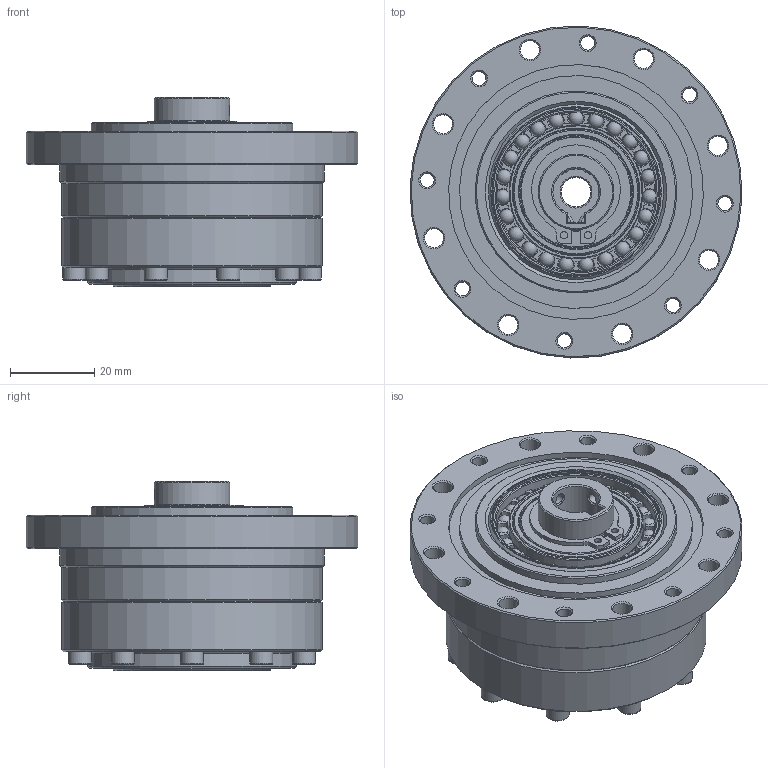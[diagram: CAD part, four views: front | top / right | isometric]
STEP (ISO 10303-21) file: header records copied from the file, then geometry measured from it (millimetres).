
FILE_DESCRIPTION(/* description */ (''),/* implementation_level */ '2;1');
FILE_NAME(/* name */ 'LSG-17-XX-U-II-φ11.stp',/* time_stamp */ '2023-06-29T10:04:56+08:00',/* author */ (''),/* organization */ (''),/* preprocessor_version */ 'ST-DEVELOPER v16.7',/* originating_system */ 'SIEMENS PLM Software NX 12.0',/* authorisation */ '');
FILE_SCHEMA (('AUTOMOTIVE_DESIGN { 1 0 10303 214 3 1 1 1 }'));
Length unit declared in the file: millimetre
Products named in the file (18): EB304006-17KE-01; EB304006-17KC-46; TC-38x47x4; O-45x1; GB-T70.1-2000,M3x16; GB-T70.1-2000,M5x16; 销子3x10; 轴用弹性挡圈φ18; 铜垫圈18.5x26.5x1; CS-17-XX-03; CS-17-00-02; CSG-17-00-01-K11; 柔轮垫块LSS-17; 柔轮LSS-17; 刚轮LSS-17; EB304006-17KE; 交叉轴承LSS-17; LSG-17-XX-U-II-φ11
Assembly tree (33 placements, depth 3):
  LSG-17-XX-U-II-φ11
    交叉轴承LSS-17
      TC-38x47x4
    刚轮LSS-17
    柔轮LSS-17
    柔轮垫块LSS-17
    EB304006-17KE
      EB304006-17KC-46
      EB304006-17KE-01
    CSG-17-00-01-K11
    CS-17-00-02
    CS-17-XX-03
    铜垫圈18.5x26.5x1
    轴用弹性挡圈φ18
    销子3x10  x3
    GB-T70.1-2000,M5x16  x6
    GB-T70.1-2000,M3x16  x10
    O-45x1
Bounding box: 78.95 x 78.95 x 45 mm (x, y, z)
Volume: 93282.9 mm3; surface area: 67745.7 mm2
Topology: 57 solids, 57 shells, 1145 faces, 2589 edges, 1551 vertices
Faces by surface type: plane 450, cone 319, cylinder 234, torus 114, sphere 23, bspline 4, revolution 1
Full cylindrical faces by diameter (mm): 1.7 x2, 2.5 x12, 2.874 x10, 3 x9, 3.3 x8, 3.5 x10, 4.2 x12, 4.5 x8, 4.826 x6, 5.5 x22, 7 x1, 8.5 x6, 10 x3, 17 x1, 18 x2, 18.5 x3, 26 x1, 26.5 x1, 27 x1, 28 x2, 29 x1, 30 x2, 31.88 x2, 33 x1, 33.8 x1, 34.5 x1, 36 x1, 37.3 x1, 37.9 x1, 38 x2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
Entity records: 22004 total; most frequent: CARTESIAN_POINT 5116, DIRECTION 3575, ORIENTED_EDGE 2708, AXIS2_PLACEMENT_3D 1592, EDGE_CURVE 1354, EDGE_LOOP 1258, VERTEX_POINT 1070, FACE_BOUND 971
